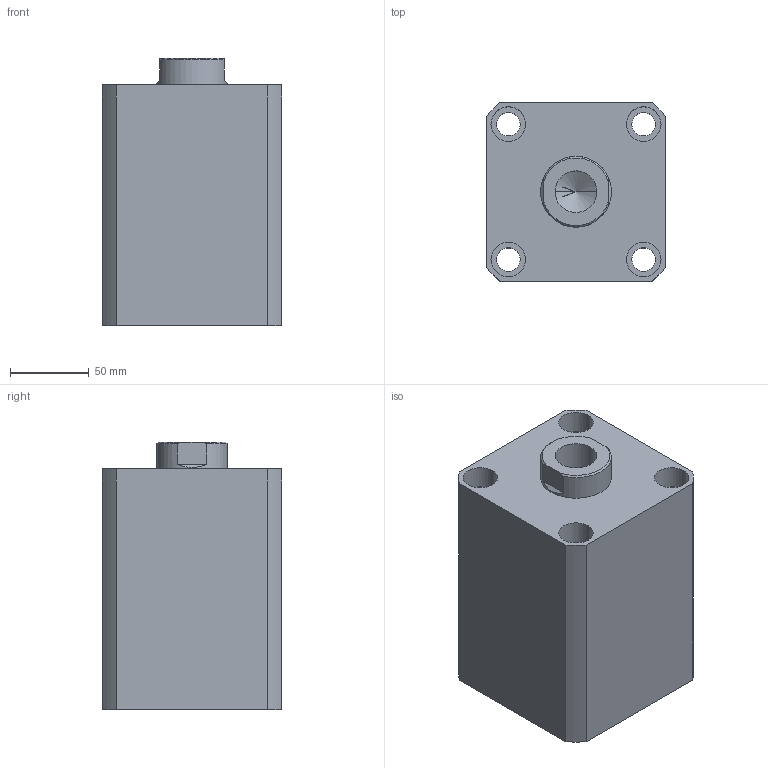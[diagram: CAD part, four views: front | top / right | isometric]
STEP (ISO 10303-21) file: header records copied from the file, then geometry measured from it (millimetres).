
FILE_DESCRIPTION (( 'STEP AP203' ), '1' );
FILE_NAME ('HTB-SDMB80-75N.STEP', '2019-10-09T06:10:50', ( '微软用户' ), ( '微软中国' ), 'SwSTEP 2.0', 'SolidWorks 2012', '' );
FILE_SCHEMA (( 'CONFIG_CONTROL_DESIGN' ));
Length unit declared in the file: millimetre
Products named in the file (3): HTB-SDMB80-75掛极; HTB-SDMB80-75N活塞杆; HTB-SDMB80-75N
Assembly tree (2 placements, depth 2):
  HTB-SDMB80-75N
    HTB-SDMB80-75掛极
    HTB-SDMB80-75N活塞杆
Bounding box: 114 x 114 x 170 mm (x, y, z)
Volume: 1577164.2 mm3; surface area: 199307.3 mm2
Topology: 2 solids, 2 shells, 137 faces, 331 edges, 217 vertices
Faces by surface type: plane 65, cylinder 46, bspline 16, torus 6, cone 4
Entity records: 5070 total; most frequent: CARTESIAN_POINT 1576, ORIENTED_EDGE 658, DIRECTION 647, EDGE_CURVE 329, AXIS2_PLACEMENT_3D 232, VERTEX_POINT 217, LINE 183, VECTOR 183
